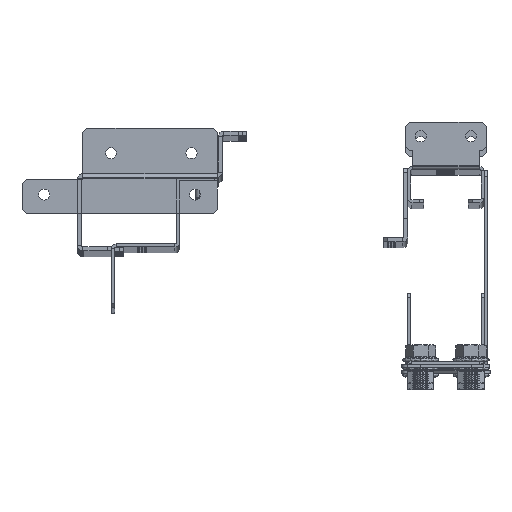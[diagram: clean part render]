
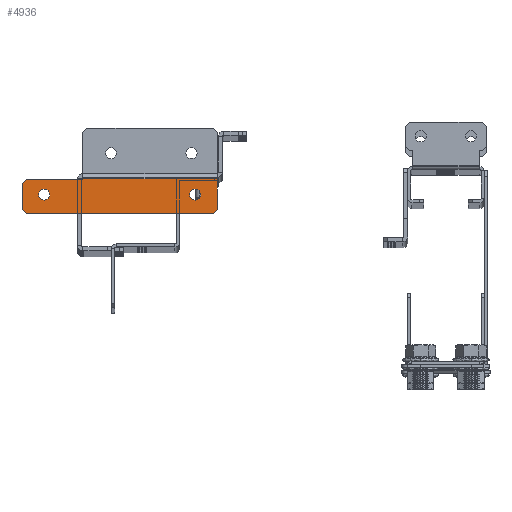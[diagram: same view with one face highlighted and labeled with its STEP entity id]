
A CAD part, top view. The second image highlights one B-rep face of the part: STEP entity #4936.
In plain terms, the highlighted planar face has unit normal (0, 0, 1).
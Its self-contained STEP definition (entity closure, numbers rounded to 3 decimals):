
#2171=CARTESIAN_POINT(' ',(-81.4,-21.6,847.7));
#2172=VERTEX_POINT(' ',#2171);
#2186=CARTESIAN_POINT(' ',(-81.4,-21.6,847.7));
#2191=DIRECTION(' ',(1.,0.,0.));
#2196=VECTOR(' ',#2191,1.);
#2201=LINE('',#2186,#2196);
#2206=CARTESIAN_POINT(' ',(-14.6,-21.6,847.7));
#2207=VERTEX_POINT(' ',#2206);
#2211=EDGE_CURVE(' ',#2172,#2207,#2201,.T.);
#4406=CARTESIAN_POINT(' ',(-81.4,-22.,847.7));
#4407=VERTEX_POINT(' ',#4406);
#4421=CARTESIAN_POINT(' ',(-81.4,-21.6,847.7));
#4426=DIRECTION(' ',(0.,-1.,0.));
#4431=VECTOR(' ',#4426,1.);
#4436=LINE('',#4421,#4431);
#4441=EDGE_CURVE(' ',#2172,#4407,#4436,.T.);
#4471=DIRECTION(' ',(0.,0.,1.));
#4476=CARTESIAN_POINT(' ',(-111.6,-39.,847.7));
#4481=DIRECTION(' ',(1.,0.,0.));
#4486=AXIS2_PLACEMENT_3D(' ',#4476,#4471,#4481);
#4491=PLANE('NONE',#4486);
#4496=CARTESIAN_POINT(' ',(-81.4,-22.,847.7));
#4501=DIRECTION(' ',(-1.,0.,0.));
#4506=VECTOR(' ',#4501,1.);
#4511=LINE('',#4496,#4506);
#4516=CARTESIAN_POINT(' ',(-109.6,-22.,847.7));
#4517=VERTEX_POINT(' ',#4516);
#4521=EDGE_CURVE(' ',#4407,#4517,#4511,.T.);
#4526=ORIENTED_EDGE(' ',*,*,#4521,.T.);
#4531=CARTESIAN_POINT(' ',(-109.6,-22.,847.7));
#4536=DIRECTION(' ',(-0.707,-0.707,0.));
#4541=VECTOR(' ',#4536,1.);
#4546=LINE('',#4531,#4541);
#4551=CARTESIAN_POINT(' ',(-111.6,-24.,847.7));
#4552=VERTEX_POINT(' ',#4551);
#4556=EDGE_CURVE(' ',#4517,#4552,#4546,.T.);
#4561=ORIENTED_EDGE(' ',*,*,#4556,.T.);
#4566=CARTESIAN_POINT(' ',(-111.6,-24.,847.7));
#4571=DIRECTION(' ',(0.,-1.,0.));
#4576=VECTOR(' ',#4571,1.);
#4581=LINE('',#4566,#4576);
#4586=CARTESIAN_POINT(' ',(-111.6,-37.,847.7));
#4587=VERTEX_POINT(' ',#4586);
#4591=EDGE_CURVE(' ',#4552,#4587,#4581,.T.);
#4596=ORIENTED_EDGE(' ',*,*,#4591,.T.);
#4601=CARTESIAN_POINT(' ',(-111.6,-37.,847.7));
#4606=DIRECTION(' ',(0.707,-0.707,0.));
#4611=VECTOR(' ',#4606,1.);
#4616=LINE('',#4601,#4611);
#4621=CARTESIAN_POINT(' ',(-109.6,-39.,847.7));
#4622=VERTEX_POINT(' ',#4621);
#4626=EDGE_CURVE(' ',#4587,#4622,#4616,.T.);
#4631=ORIENTED_EDGE(' ',*,*,#4626,.T.);
#4636=CARTESIAN_POINT(' ',(-109.6,-39.,847.7));
#4641=DIRECTION(' ',(1.,0.,0.));
#4646=VECTOR(' ',#4641,1.);
#4651=LINE('',#4636,#4646);
#4656=CARTESIAN_POINT(' ',(-16.6,-39.,847.7));
#4657=VERTEX_POINT(' ',#4656);
#4661=EDGE_CURVE(' ',#4622,#4657,#4651,.T.);
#4666=ORIENTED_EDGE(' ',*,*,#4661,.T.);
#4671=CARTESIAN_POINT(' ',(-16.6,-39.,847.7));
#4676=DIRECTION(' ',(0.707,0.707,0.));
#4681=VECTOR(' ',#4676,1.);
#4686=LINE('',#4671,#4681);
#4691=CARTESIAN_POINT(' ',(-14.6,-37.,847.7));
#4692=VERTEX_POINT(' ',#4691);
#4696=EDGE_CURVE(' ',#4657,#4692,#4686,.T.);
#4701=ORIENTED_EDGE(' ',*,*,#4696,.T.);
#4706=CARTESIAN_POINT(' ',(-14.6,-37.,847.7));
#4711=DIRECTION(' ',(0.,1.,0.));
#4716=VECTOR(' ',#4711,1.);
#4721=LINE('',#4706,#4716);
#4726=EDGE_CURVE(' ',#4692,#2207,#4721,.T.);
#4731=ORIENTED_EDGE(' ',*,*,#4726,.T.);
#4736=ORIENTED_EDGE(' ',*,*,#2211,.F.);
#4741=ORIENTED_EDGE(' ',*,*,#4441,.T.);
#4746=EDGE_LOOP(' ',(#4526,#4561,#4596,#4631,#4666,#4701,#4731,#4736,#4741));
#4751=FACE_OUTER_BOUND(' ',#4746,.T.);
#4756=CARTESIAN_POINT(' ',(-25.6,-29.5,847.7));
#4761=DIRECTION(' ',(0.,0.,1.));
#4766=DIRECTION(' ',(1.,0.,0.));
#4771=AXIS2_PLACEMENT_3D(' ',#4756,#4761,#4766);
#4776=CIRCLE('',#4771,2.75);
#4781=CARTESIAN_POINT(' ',(-22.85,-29.5,847.7));
#4782=VERTEX_POINT(' ',#4781);
#4786=CARTESIAN_POINT(' ',(-28.35,-29.5,847.7));
#4787=VERTEX_POINT(' ',#4786);
#4791=EDGE_CURVE(' ',#4782,#4787,#4776,.T.);
#4796=ORIENTED_EDGE(' ',*,*,#4791,.F.);
#4801=CARTESIAN_POINT(' ',(-25.6,-29.5,847.7));
#4806=DIRECTION(' ',(0.,-0.,1.));
#4811=DIRECTION(' ',(-1.,0.,0.));
#4816=AXIS2_PLACEMENT_3D(' ',#4801,#4806,#4811);
#4821=CIRCLE('',#4816,2.75);
#4826=EDGE_CURVE(' ',#4787,#4782,#4821,.T.);
#4831=ORIENTED_EDGE(' ',*,*,#4826,.F.);
#4836=EDGE_LOOP(' ',(#4796,#4831));
#4841=FACE_BOUND(' ',#4836,.T.);
#4846=CARTESIAN_POINT(' ',(-100.6,-29.5,847.7));
#4851=DIRECTION(' ',(0.,0.,1.));
#4856=DIRECTION(' ',(1.,0.,0.));
#4861=AXIS2_PLACEMENT_3D(' ',#4846,#4851,#4856);
#4866=CIRCLE('',#4861,2.75);
#4871=CARTESIAN_POINT(' ',(-97.85,-29.5,847.7));
#4872=VERTEX_POINT(' ',#4871);
#4876=CARTESIAN_POINT(' ',(-103.35,-29.5,847.7));
#4877=VERTEX_POINT(' ',#4876);
#4881=EDGE_CURVE(' ',#4872,#4877,#4866,.T.);
#4886=ORIENTED_EDGE(' ',*,*,#4881,.F.);
#4891=CARTESIAN_POINT(' ',(-100.6,-29.5,847.7));
#4896=DIRECTION(' ',(0.,-0.,1.));
#4901=DIRECTION(' ',(-1.,0.,0.));
#4906=AXIS2_PLACEMENT_3D(' ',#4891,#4896,#4901);
#4911=CIRCLE('',#4906,2.75);
#4916=EDGE_CURVE(' ',#4877,#4872,#4911,.T.);
#4921=ORIENTED_EDGE(' ',*,*,#4916,.F.);
#4926=EDGE_LOOP(' ',(#4886,#4921));
#4931=FACE_BOUND(' ',#4926,.T.);
#4936=ADVANCED_FACE('NONE',(#4751,#4841,#4931),#4491,.T.);
